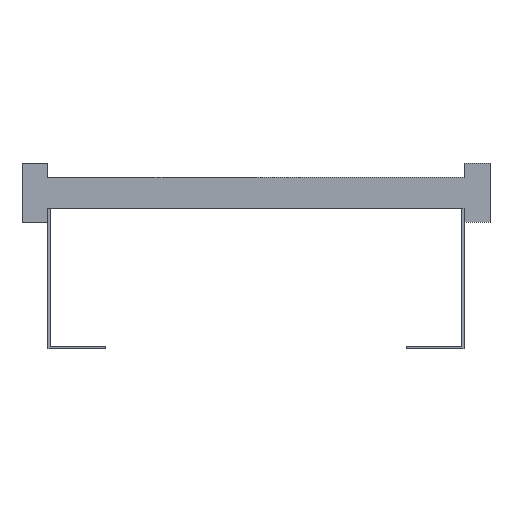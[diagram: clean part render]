
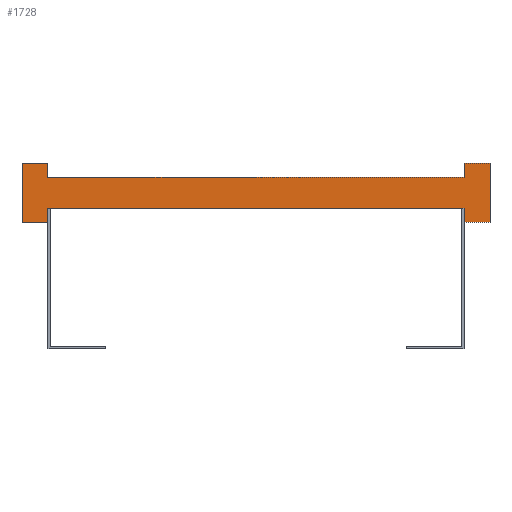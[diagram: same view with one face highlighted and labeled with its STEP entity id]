
A CAD part, front view. The second image highlights one B-rep face of the part: STEP entity #1728.
In plain terms, the highlighted planar face has unit normal (0, -1, 0).
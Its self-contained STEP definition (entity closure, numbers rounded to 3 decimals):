
#1=DIRECTION('',(0.,0.,1.));
#2=VECTOR('',#1,13.5);
#3=CARTESIAN_POINT('',(200.,0.,-28.5));
#4=LINE('',#3,#2);
#5=DIRECTION('',(0.,0.,-1.));
#6=VECTOR('',#5,13.5);
#7=CARTESIAN_POINT('',(-200.,0.,-15.));
#8=LINE('',#7,#6);
#9=DIRECTION('',(-1.,0.,0.));
#10=VECTOR('',#9,25.);
#11=CARTESIAN_POINT('',(-200.,0.,-28.5));
#12=LINE('',#11,#10);
#13=DIRECTION('',(0.,0.,1.));
#14=VECTOR('',#13,57.);
#15=CARTESIAN_POINT('',(-225.,0.,-28.5));
#16=LINE('',#15,#14);
#17=DIRECTION('',(1.,0.,0.));
#18=VECTOR('',#17,25.);
#19=CARTESIAN_POINT('',(-225.,0.,28.5));
#20=LINE('',#19,#18);
#21=DIRECTION('',(0.,0.,-1.));
#22=VECTOR('',#21,13.5);
#23=CARTESIAN_POINT('',(-200.,0.,28.5));
#24=LINE('',#23,#22);
#25=DIRECTION('',(0.,0.,1.));
#26=VECTOR('',#25,13.5);
#27=CARTESIAN_POINT('',(200.,0.,15.));
#28=LINE('',#27,#26);
#29=DIRECTION('',(1.,0.,0.));
#30=VECTOR('',#29,25.);
#31=CARTESIAN_POINT('',(200.,0.,28.5));
#32=LINE('',#31,#30);
#33=DIRECTION('',(0.,0.,-1.));
#34=VECTOR('',#33,57.);
#35=CARTESIAN_POINT('',(225.,0.,28.5));
#36=LINE('',#35,#34);
#37=DIRECTION('',(-1.,0.,0.));
#38=VECTOR('',#37,25.);
#39=CARTESIAN_POINT('',(225.,0.,-28.5));
#40=LINE('',#39,#38);
#1265=DIRECTION('',(1.,0.,0.));
#1266=VECTOR('',#1265,400.);
#1267=CARTESIAN_POINT('',(-200.,0.,-15.));
#1268=LINE('',#1267,#1266);
#1277=DIRECTION('',(1.,0.,0.));
#1278=VECTOR('',#1277,400.);
#1279=CARTESIAN_POINT('',(-200.,0.,15.));
#1280=LINE('',#1279,#1278);
#1281=CARTESIAN_POINT('',(-225.,0.,28.5));
#1282=CARTESIAN_POINT('',(-200.,0.,28.5));
#1283=VERTEX_POINT('',#1281);
#1284=VERTEX_POINT('',#1282);
#1285=CARTESIAN_POINT('',(-200.,0.,-28.5));
#1286=CARTESIAN_POINT('',(-225.,0.,-28.5));
#1287=VERTEX_POINT('',#1285);
#1288=VERTEX_POINT('',#1286);
#1289=CARTESIAN_POINT('',(225.,0.,28.5));
#1290=CARTESIAN_POINT('',(225.,0.,-28.5));
#1291=VERTEX_POINT('',#1289);
#1292=VERTEX_POINT('',#1290);
#1293=CARTESIAN_POINT('',(200.,0.,-28.5));
#1294=VERTEX_POINT('',#1293);
#1295=CARTESIAN_POINT('',(200.,0.,28.5));
#1296=VERTEX_POINT('',#1295);
#1313=CARTESIAN_POINT('',(-200.,0.,-15.));
#1315=VERTEX_POINT('',#1313);
#1317=CARTESIAN_POINT('',(-200.,0.,15.));
#1319=VERTEX_POINT('',#1317);
#1321=CARTESIAN_POINT('',(200.,0.,-15.));
#1323=VERTEX_POINT('',#1321);
#1325=CARTESIAN_POINT('',(200.,0.,15.));
#1327=VERTEX_POINT('',#1325);
#1697=CARTESIAN_POINT('',(0.,0.,0.));
#1698=DIRECTION('',(0.,1.,0.));
#1699=DIRECTION('',(1.,0.,0.));
#1700=AXIS2_PLACEMENT_3D('',#1697,#1698,#1699);
#1701=PLANE('',#1700);
#1703=ORIENTED_EDGE('',*,*,#1702,.T.);
#1705=ORIENTED_EDGE('',*,*,#1704,.F.);
#1707=ORIENTED_EDGE('',*,*,#1706,.T.);
#1709=ORIENTED_EDGE('',*,*,#1708,.T.);
#1711=ORIENTED_EDGE('',*,*,#1710,.T.);
#1713=ORIENTED_EDGE('',*,*,#1712,.T.);
#1715=ORIENTED_EDGE('',*,*,#1714,.T.);
#1717=ORIENTED_EDGE('',*,*,#1716,.T.);
#1719=ORIENTED_EDGE('',*,*,#1718,.T.);
#1721=ORIENTED_EDGE('',*,*,#1720,.T.);
#1723=ORIENTED_EDGE('',*,*,#1722,.T.);
#1725=ORIENTED_EDGE('',*,*,#1724,.T.);
#1726=EDGE_LOOP('',(#1703,#1705,#1707,#1709,#1711,#1713,#1715,#1717,#1719,#1721,
#1723,#1725));
#1727=FACE_OUTER_BOUND('',#1726,.F.);
#1728=ADVANCED_FACE('',(#1727),#1701,.F.);
#1702=EDGE_CURVE('',#1294,#1323,#4,.T.);
#1704=EDGE_CURVE('',#1315,#1323,#1268,.T.);
#1706=EDGE_CURVE('',#1315,#1287,#8,.T.);
#1708=EDGE_CURVE('',#1287,#1288,#12,.T.);
#1710=EDGE_CURVE('',#1288,#1283,#16,.T.);
#1712=EDGE_CURVE('',#1283,#1284,#20,.T.);
#1714=EDGE_CURVE('',#1284,#1319,#24,.T.);
#1716=EDGE_CURVE('',#1319,#1327,#1280,.T.);
#1718=EDGE_CURVE('',#1327,#1296,#28,.T.);
#1720=EDGE_CURVE('',#1296,#1291,#32,.T.);
#1722=EDGE_CURVE('',#1291,#1292,#36,.T.);
#1724=EDGE_CURVE('',#1292,#1294,#40,.T.);
